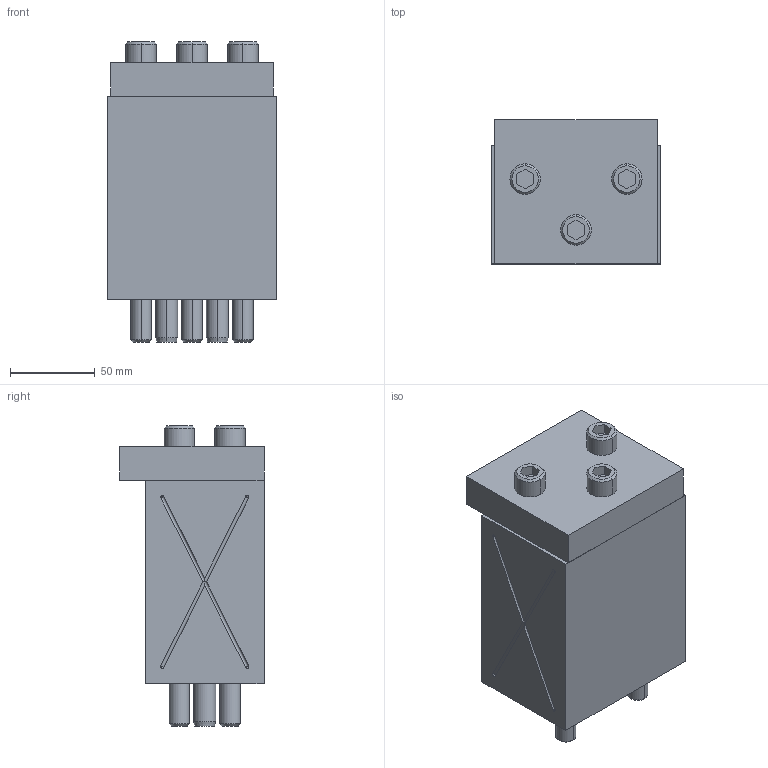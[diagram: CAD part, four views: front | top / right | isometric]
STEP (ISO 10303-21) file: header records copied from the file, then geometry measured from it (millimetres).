
FILE_DESCRIPTION((''),'2;1');
FILE_NAME('','2010-09-29T17:42:05+09:00',('misumi'),(''),'M/STEP i/f 1R2-14','CADmeister v5.1','');
FILE_SCHEMA(('AUTOMOTIVE_DESIGN'));
Length unit declared in the file: millimetre
Products named in the file (1): KEPNZ100-120-20
Bounding box: 100 x 85 x 177 mm (x, y, z)
Volume: 908550.4 mm3; surface area: 138681.7 mm2
Topology: 10 solids, 10 shells, 206 faces, 472 edges, 299 vertices
Faces by surface type: plane 86, cylinder 76, cone 32, revolution 12
Entity records: 8692 total; most frequent: CARTESIAN_POINT 1068, DIRECTION 1064, ORIENTED_EDGE 920, COLOUR_RGB 628, CURVE_STYLE 547, PRESENTATION_STYLE_ASSIGNMENT 537, OVER_RIDING_STYLED_ITEM 527, EDGE_CURVE 460
